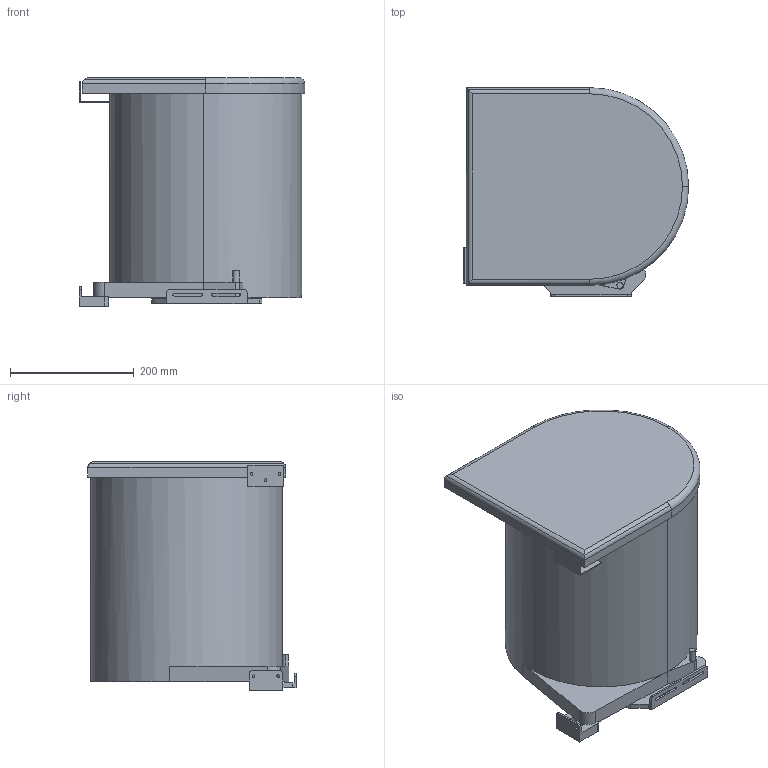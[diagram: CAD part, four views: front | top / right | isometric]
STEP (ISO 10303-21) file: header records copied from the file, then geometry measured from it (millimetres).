
FILE_DESCRIPTION(('STEP AP242'),'1');
FILE_NAME('OPO_53.441.21_volu_schn_3d.stp','2025-11-08T20:32:08',(' '),(' '),'Spatial InterOp 3D',' ',' ');
FILE_SCHEMA(('AP242_MANAGED_MODEL_BASED_3D_ENGINEERING_MIM_LF {1 0 10303 442 1 1 4}'));
Length unit declared in the file: millimetre
Products named in the file (1): 1
Bounding box: 364.4 x 337 x 370 mm (x, y, z)
Volume: 27852216.1 mm3; surface area: 615968.5 mm2
Topology: 3 solids, 4 shells, 147 faces, 814 edges, 1102 vertices
Faces by surface type: plane 78, cylinder 67, torus 2
Entity records: 10997 total; most frequent: DIRECTION 1316, CARTESIAN_POINT 1219, ORIENTED_EDGE 772, LINE 614, VECTOR 614, STYLED_ITEM 575, PRESENTATION_STYLE_ASSIGNMENT 575, COLOUR_RGB 575
